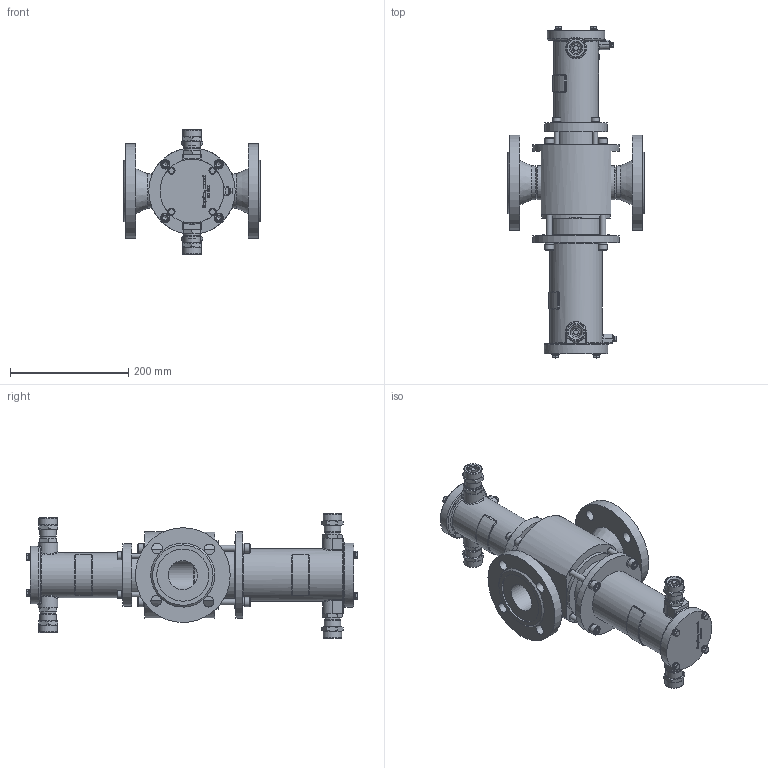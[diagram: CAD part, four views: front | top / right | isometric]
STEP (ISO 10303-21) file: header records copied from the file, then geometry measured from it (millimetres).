
FILE_DESCRIPTION(('STEP AP203'), '1');
FILE_NAME('捇迕-玿 DN50_25PN25', '', ('UNSPECIFIED'), ('UNSPECIFIED'), 'ASCON STEP Converter 1.6', 'ASCON Math Kernel', '');
FILE_SCHEMA(('CONFIG_CONTROL_DESIGN'));
Length unit declared in the file: millimetre
Bounding box: 230 x 560.4 x 211 mm (x, y, z)
Volume: 3701244 mm3; surface area: 597935.7 mm2
Topology: 4 solids, 4 shells, 3482 faces, 9470 edges, 6157 vertices
Faces by surface type: cylinder 1823, plane 1333, cone 186, bspline 58, torus 50, extrusion 32
Full cylindrical faces by diameter (mm): 3.5 x4, 4.134 x2, 4.917 x8, 5 x4, 6 x13, 6.5 x1, 8 x18, 8.2 x2, 9 x4, 10 x10, 11 x10, 12 x8, 13 x6, 16 x8, 18 x8, 18.632 x2, 20 x4, 22.376 x2, 26 x4, 28 x4, 31 x4, 33 x2, 34.376 x1, 36.5 x1, 38 x1, 41 x1, 42 x1, 49 x2, 50 x4, 52 x3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
Entity records: 157818 total; most frequent: CARTESIAN_POINT 41293, DIRECTION 19278, ORIENTED_EDGE 18162, EDGE_CURVE 9081, AXIS2_PLACEMENT_3D 7467, VERTEX_POINT 6136, VECTOR 4344, LINE 4312
